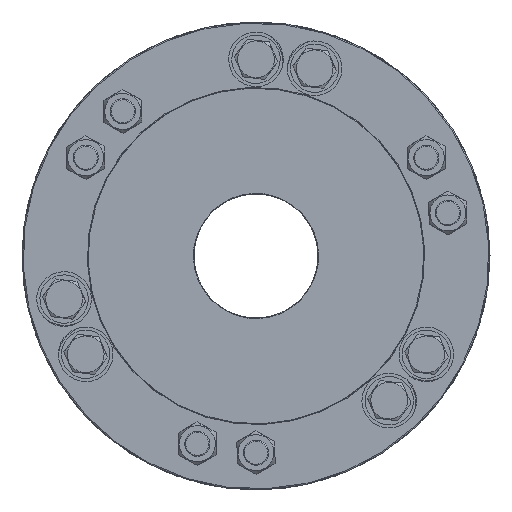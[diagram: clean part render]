
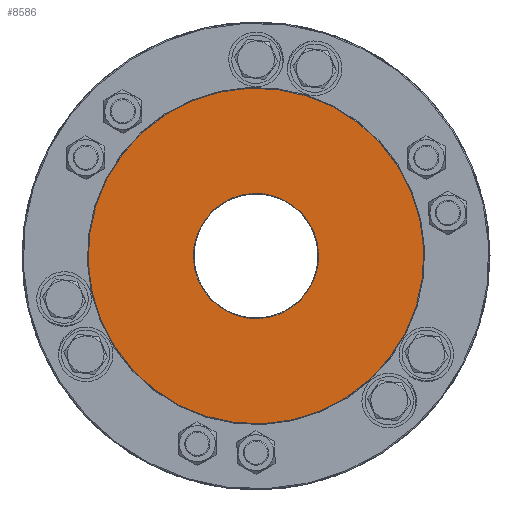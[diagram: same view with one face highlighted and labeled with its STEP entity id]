
A CAD part, left-side view. The second image highlights one B-rep face of the part: STEP entity #8586.
In plain terms, the highlighted planar face has unit normal (-1, 0, 0).
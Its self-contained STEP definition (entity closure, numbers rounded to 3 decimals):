
#2548 = CIRCLE ( 'NONE', #51710, 59.5 ) ;
#3888 = FACE_BOUND ( 'NONE', #6726, .T. ) ;
#4500 = CIRCLE ( 'NONE', #51176, 159.6 ) ;
#6726 = EDGE_LOOP ( 'NONE', ( #30148, #25282 ) ) ;
#7069 = CARTESIAN_POINT ( 'NONE',  ( -360., 0., 0. ) ) ;
#7383 = AXIS2_PLACEMENT_3D ( 'NONE', #40874, #32568, #14900 ) ;
#7780 = DIRECTION ( 'NONE',  ( 0., -0.298, 0.954 ) ) ;
#8586 = ADVANCED_FACE ( 'Defeatured_0_1805', ( #3888, #55181 ), #23519, .T. ) ;
#9232 = EDGE_CURVE ( 'Defeatured_0_1805+Defeatured_0_1915+Defeatured_0_1915+Defeatured_0_1915', #12076, #15612, #9319, .T. ) ;
#9319 = CIRCLE ( 'NONE', #56339, 59.5 ) ;
#9381 = EDGE_CURVE ( 'Defeatured_0_1805+Defeatured_0_1747+Defeatured_0_1747+Defeatured_0_1747', #33565, #19554, #4500, .T. ) ;
#12076 = VERTEX_POINT ( 'NONE', #56586 ) ;
#14900 = DIRECTION ( 'NONE',  ( 0., -0.298, 0.954 ) ) ;
#15612 = VERTEX_POINT ( 'NONE', #25500 ) ;
#18110 = AXIS2_PLACEMENT_3D ( 'NONE', #54055, #27976, #27784 ) ;
#19554 = VERTEX_POINT ( 'NONE', #29912 ) ;
#23519 = PLANE ( 'NONE',  #18110 ) ;
#25282 = ORIENTED_EDGE ( 'NONE', *, *, #9232, .T. ) ;
#25500 = CARTESIAN_POINT ( 'NONE',  ( -360., -17.746, 56.792 ) ) ;
#27143 = EDGE_LOOP ( 'NONE', ( #51173, #43351 ) ) ;
#27784 = DIRECTION ( 'NONE',  ( 0., -0.298, 0.954 ) ) ;
#27976 = DIRECTION ( 'NONE',  ( -1., 0., 0. ) ) ;
#28401 = EDGE_CURVE ( 'Defeatured_0_1805+Defeatured_0_1915+Defeatured_0_1915+Defeatured_0_1915', #15612, #12076, #2548, .T. ) ;
#29912 = CARTESIAN_POINT ( 'NONE',  ( -360., 47.601, -152.336 ) ) ;
#30148 = ORIENTED_EDGE ( 'NONE', *, *, #28401, .T. ) ;
#32568 = DIRECTION ( 'NONE',  ( -1., 0., 0. ) ) ;
#33105 = CARTESIAN_POINT ( 'NONE',  ( -360., -47.601, 152.336 ) ) ;
#33565 = VERTEX_POINT ( 'NONE', #33105 ) ;
#34782 = CIRCLE ( 'NONE', #7383, 159.6 ) ;
#40874 = CARTESIAN_POINT ( 'NONE',  ( -360., 0., 0. ) ) ;
#42922 = DIRECTION ( 'NONE',  ( 1., 0., 0. ) ) ;
#43115 = DIRECTION ( 'NONE',  ( 0., -0.298, 0.954 ) ) ;
#43277 = CARTESIAN_POINT ( 'NONE',  ( -360., 0., 0. ) ) ;
#43351 = ORIENTED_EDGE ( 'NONE', *, *, #9381, .T. ) ;
#44993 = DIRECTION ( 'NONE',  ( 0., -0.298, 0.954 ) ) ;
#48827 = DIRECTION ( 'NONE',  ( -1., 0., 0. ) ) ;
#51173 = ORIENTED_EDGE ( 'NONE', *, *, #54618, .T. ) ;
#51176 = AXIS2_PLACEMENT_3D ( 'NONE', #53664, #48827, #44993 ) ;
#51710 = AXIS2_PLACEMENT_3D ( 'NONE', #7069, #42922, #43115 ) ;
#53664 = CARTESIAN_POINT ( 'NONE',  ( -360., 0., 0. ) ) ;
#54055 = CARTESIAN_POINT ( 'NONE',  ( -360., 152.718, 47.72 ) ) ;
#54618 = EDGE_CURVE ( 'Defeatured_0_1805+Defeatured_0_1747+Defeatured_0_1747+Defeatured_0_1747', #19554, #33565, #34782, .T. ) ;
#55181 = FACE_OUTER_BOUND ( 'NONE', #27143, .T. ) ;
#56339 = AXIS2_PLACEMENT_3D ( 'NONE', #43277, #56410, #7780 ) ;
#56410 = DIRECTION ( 'NONE',  ( 1., 0., 0. ) ) ;
#56586 = CARTESIAN_POINT ( 'NONE',  ( -360., 17.746, -56.792 ) ) ;
